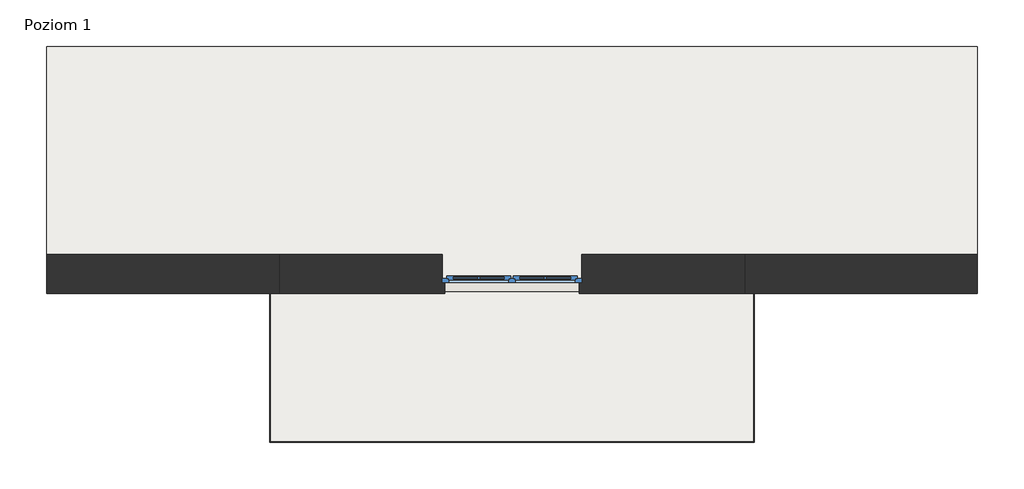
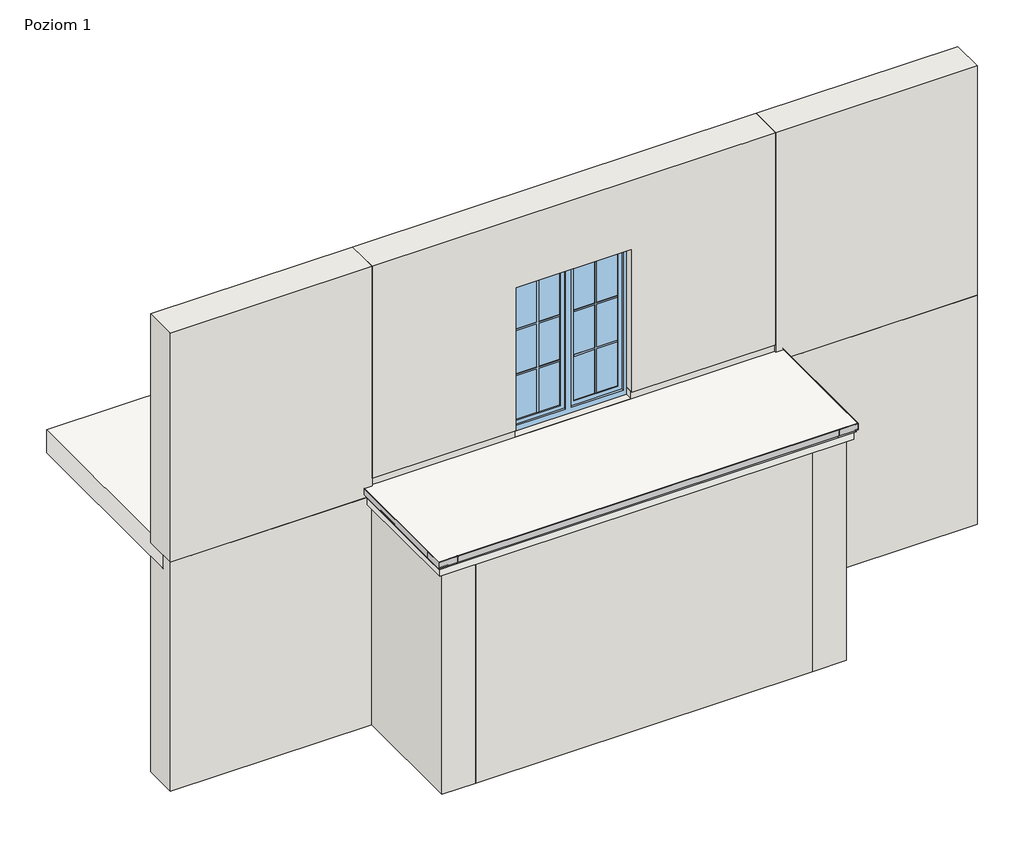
# One storey, part 1 of 4: 10 walls, 5 proxies, 3 slabs, 1 window.
"""IFC4 building model written with IfcOpenShell, lengths in millimetres."""

from ifc_helpers import new_model, si_unit, frame, origin, place, context, project, spatial, polyline, outline, extrude, faceted_brep, transform, mapped, element, save
from components import generic_models_7e4038cf, generic_models_5630e756, w60_6fb74b1a, w60_1233e3f4, w60_c95d3f9e, window_150x200_12b14935

model = new_model("IFC4")

# Units and contexts
model_context = context("Model", 3, world=origin())
ifc_project = project(units=[si_unit("LENGTHUNIT", "METRE", prefix="MILLI")], contexts=[model_context])

# Site, building, storey
site = spatial("IfcSite", under=ifc_project)
building = spatial("IfcBuilding", under=site)
storey = spatial("IfcBuildingStorey", under=building, Name="Poziom 1", Elevation=0.0)

# Proxies
placement = place(None, origin())
generic_models_shape = generic_models_7e4038cf(model_context)
element("IfcBuildingElementProxy", 1, Name="Odbojniki - OPW60 : Odbojniki - OPW60", ObjectType="Odbojniki - OPW60 : Odbojniki - OPW60", at=placement, inside=storey, context=model_context, shape_type="MappedRepresentation", body=[
    mapped(generic_models_shape, transform((-105753.3865026, 45282.2483344, -55.0), x_axis=(0.0, -1.0, 0.0), y_axis=(1.0, 0.0, 0.0), z_axis=(0.0, 0.0, 1.0))),
])
generic_models_2_shape = generic_models_5630e756(model_context)
element("IfcBuildingElementProxy", 2, Name="Odbojniki - OPW60 : Odbojniki - OPW60", ObjectType="Odbojniki - OPW60 : Odbojniki - OPW60", at=placement, inside=storey, context=model_context, shape_type="MappedRepresentation", body=[
    mapped(generic_models_2_shape, transform((-100555.0865026, 45281.1663007, -55.0), x_axis=(0.0, -1.0, 0.0), y_axis=(1.0, 0.0, 0.0), z_axis=(0.0, 0.0, 1.0))),
])
w60_shape = w60_6fb74b1a(model_context)
element("IfcBuildingElementProxy", 3, Name="W60 Profil okapowy prosty : W60", ObjectType="W60 Profil okapowy prosty : W60", at=placement, inside=storey, context=model_context, shape_type="MappedRepresentation", body=[
    mapped(w60_shape, transform((-105717.2365026, 43700.2483344, -55.0), x_axis=(1.0, 0.0, 0.0), y_axis=(0.0, 1.0, 0.0), z_axis=(0.0, 0.0, 1.0))),
])
w60_2_shape = w60_1233e3f4(model_context)
element("IfcBuildingElementProxy", 4, Name="W60 Profil okapowy prosty : W60", ObjectType="W60 Profil okapowy prosty : W60", at=placement, inside=storey, context=model_context, shape_type="MappedRepresentation", body=[
    mapped(w60_2_shape, transform((-105717.2365026, 45285.2483344, -55.0), x_axis=(0.0, -1.0, 0.0), y_axis=(1.0, 0.0, 0.0), z_axis=(0.0, 0.0, 1.0))),
])
w60_3_shape = w60_c95d3f9e(model_context)
element("IfcBuildingElementProxy", 5, Name="W60 Profil okapowy prosty : W60", ObjectType="W60 Profil okapowy prosty : W60", at=placement, inside=storey, context=model_context, shape_type="MappedRepresentation", body=[
    mapped(w60_3_shape, transform((-100591.2365026, 45284.1663007, -55.0), x_axis=(0.0, -1.0, 0.0), y_axis=(1.0, 0.0, 0.0), z_axis=(0.0, 0.0, 1.0))),
])

# Slabs
element("IfcSlab", 6, ObjectType="Taras - wykończenie - posadzka z płytek grubowarstwowych - podkładka P1 - hydroizolacja", at=placement, inside=storey, context=model_context, shape_type="SweptSolid", body=[
    extrude(outline(polyline([(-105717.2365026, 43700.2483344), (-105717.2365026, 45285.2483344), (-100591.2365026, 45285.2483344), (-100591.2365026, 43700.2483344), (-105717.2365026, 43700.2483344)])), frame((0.0, 0.0, -215.0), z_axis=(0.0, 0.0, 1.0), x_axis=(1.0, 0.0, 0.0)), (0.0, 0.0, 1.0), 160.0),
])
element("IfcSlab", 7, ObjectType="Taras - wykończenie - posadzka z płytek grubowarstwowych", at=placement, inside=storey, context=model_context, shape_type="SweptSolid", body=[
    extrude(outline(polyline([(-105749.4365026, 43668.0483344), (-105749.4365026, 45285.2483344), (-100559.0365026, 45285.2483344), (-100559.0365026, 43668.0483344), (-105749.4365026, 43668.0483344)])), frame((0.0, 0.0, -55.0), z_axis=(0.0, 0.0, 1.0), x_axis=(1.0, 0.0, 0.0)), (0.0, 0.0, 1.0), 55.0),
])
element("IfcSlab", 8, ObjectType="Strop", at=placement, inside=storey, context=model_context, shape_type="Brep", body=[
    faceted_brep([(-98154.2365026, 45418.2483344, -300.0), (-100649.2365026, 45418.2483344, -300.0), (-101069.2365026, 45418.2483344, -300.0), (-105239.2365026, 45418.2483344, -300.0), (-108154.2365026, 45418.2483344, -300.0), (-108154.2365026, 45683.2483344, -300.0), (-108154.2365026, 47918.2483344, -300.0), (-98154.2365026, 47918.2483344, -300.0), (-98154.2365026, 45683.2483344, -300.0), (-98154.2365026, 45418.2483344, 0.0), (-98154.2365026, 47918.2483344, 0.0), (-108154.2365026, 47918.2483344, 0.0), (-108154.2365026, 45418.2483344, 0.0), (-105654.2365026, 45418.2483344, 0.0), (-103904.2365026, 45418.2483344, 0.0), (-102404.2365026, 45418.2483344, 0.0), (-100654.2365026, 45418.2483344, 0.0), (-98154.2365026, 45418.2483344, -125.0), (-108154.2365026, 45418.2483344, -125.0)], [[[0, 1, 2, 3, 4, 5, 6, 7, 8]], [[9, 10, 11, 12, 13, 14, 15, 16]], [[4, 3, 2, 1, 0, 17, 9, 16, 15, 14, 13, 12, 18]], [[6, 5, 4, 18, 12, 11]], [[7, 6, 11, 10]], [[0, 8, 7, 10, 9, 17]]]),
])

# Walls
element("IfcWall", 9, ObjectType="Porotherm P+W 25 + o15 + t", at=placement, inside=storey, context=model_context, shape_type="Brep", body=[
    faceted_brep([(-108154.2365026, 45263.2483344, -3125.0), (-105659.2365026, 45263.2483344, -3125.0), (-105239.2365026, 45263.2483344, -3125.0), (-105239.2365026, 45263.2483344, -147.509132), (-105449.2365026, 45263.2483344, -147.509132), (-105449.2365026, 45263.2483344, -125.0), (-105654.2365026, 45263.2483344, -125.0), (-108154.2365026, 45263.2483344, -125.0), (-105239.2365026, 45683.2483344, -3125.0), (-108154.2365026, 45683.2483344, -3125.0), (-108154.2365026, 45683.2483344, -300.0), (-105239.2365026, 45683.2483344, -300.0), (-105239.2365026, 45403.2483344, -3125.0), (-105449.2365026, 45403.2483344, -125.0), (-105449.2365026, 45418.2483344, -125.0), (-108154.2365026, 45418.2483344, -125.0), (-108154.2365026, 45418.2483344, -300.0), (-105239.2365026, 45418.2483344, -300.0), (-105449.2365026, 45418.2483344, -147.509132), (-105239.2365026, 45418.2483344, -147.509132), (-105449.2365026, 45403.2483344, -147.509132), (-105239.2365026, 45403.2483344, -147.509132)], [[[0, 1, 2, 3, 4, 5, 6, 7]], [[8, 9, 10, 11]], [[2, 1, 0, 9, 8, 12]], [[7, 6, 5, 13, 14, 15]], [[0, 7, 15, 16, 10, 9]], [[16, 17, 11, 10]], [[17, 16, 15, 14, 18, 19]], [[5, 4, 20, 18, 14, 13]], [[4, 3, 21, 19, 18, 20]], [[3, 2, 12, 8, 11, 17, 19, 21]]]),
])
element("IfcWall", 10, ObjectType="Porotherm P+W 25 + o15 + t", at=placement, inside=storey, context=model_context, shape_type="Brep", body=[
    faceted_brep([(-105659.2365026, 45263.2483344, -3125.0), (-105659.2365026, 43758.2483344, -3125.0), (-105659.2365026, 43758.2483344, -147.509132), (-105659.2365026, 45263.2483344, -147.509132), (-105239.2365026, 45263.2483344, -3125.0), (-105239.2365026, 45263.2483344, -147.509132), (-105239.2365026, 44178.2483344, -147.509132), (-105239.2365026, 43758.2483344, -147.509132), (-105239.2365026, 43758.2483344, -3125.0), (-105239.2365026, 44178.2483344, -3125.0), (-105449.2365026, 45263.2483344, -147.509132)], [[[0, 1, 2, 3]], [[4, 5, 6, 7, 8, 9]], [[1, 0, 4, 9, 8]], [[3, 2, 7, 6, 5, 10]], [[2, 1, 8, 7]], [[0, 3, 10, 5, 4]]]),
])
element("IfcWall", 11, ObjectType="Porotherm P+W 25 + o15 + t", at=placement, inside=storey, context=model_context, shape_type="SweptSolid", body=[
    extrude(outline(polyline([(-101069.2365026, 43758.2483344), (-105239.2365026, 43758.2483344), (-105239.2365026, 44178.2483344), (-101069.2365026, 44178.2483344), (-101069.2365026, 43758.2483344)])), frame((0.0, 0.0, -3125.0), z_axis=(0.0, 0.0, 1.0), x_axis=(1.0, 0.0, 0.0)), (0.0, 0.0, 1.0), 2977.490868),
])
element("IfcWall", 12, ObjectType="Porotherm P+W 25 + o15 + t", at=placement, inside=storey, context=model_context, shape_type="Brep", body=[
    faceted_brep([(-100649.2365026, 43758.2483344, -3125.0), (-100649.2365026, 45263.2483344, -3125.0), (-100649.2365026, 45683.2483344, -3125.0), (-100649.2365026, 45683.2483344, -300.0), (-100649.2365026, 45683.2483344, -147.509132), (-100649.2365026, 45418.2483344, -147.509132), (-100649.2365026, 45263.2483344, -147.509132), (-100649.2365026, 43758.2483344, -147.509132), (-101069.2365026, 43758.2483344, -3125.0), (-101069.2365026, 43758.2483344, -147.509132), (-101069.2365026, 44178.2483344, -147.509132), (-101069.2365026, 45403.2483344, -147.509132), (-101069.2365026, 45418.2483344, -147.509132), (-101069.2365026, 45683.2483344, -147.509132), (-101069.2365026, 45683.2483344, -300.0), (-101069.2365026, 45683.2483344, -3125.0), (-101069.2365026, 45403.2483344, -3125.0), (-101069.2365026, 44178.2483344, -3125.0)], [[[0, 1, 2, 3, 4, 5, 6, 7]], [[8, 9, 10, 11, 12, 13, 14, 15, 16, 17]], [[2, 1, 0, 8, 17, 16, 15]], [[7, 6, 5, 4, 13, 12, 11, 10, 9]], [[0, 7, 9, 8]], [[4, 3, 2, 15, 14, 13]]]),
])
element("IfcWall", 13, ObjectType="Porotherm P+W 25 + o15 + t", at=placement, inside=storey, context=model_context, shape_type="Brep", body=[
    faceted_brep([(-100649.2365026, 45263.2483344, -3125.0), (-98154.2365026, 45263.2483344, -3125.0), (-98154.2365026, 45263.2483344, -125.0), (-100654.2365026, 45263.2483344, -125.0), (-100859.2365026, 45263.2483344, -125.0), (-100859.2365026, 45263.2483344, -147.509132), (-100649.2365026, 45263.2483344, -147.509132), (-98154.2365026, 45683.2483344, -3125.0), (-100649.2365026, 45683.2483344, -3125.0), (-100649.2365026, 45683.2483344, -300.0), (-98154.2365026, 45683.2483344, -300.0), (-98154.2365026, 45418.2483344, -300.0), (-98154.2365026, 45418.2483344, -125.0), (-100859.2365026, 45418.2483344, -125.0), (-100859.2365026, 45403.2483344, -125.0), (-100649.2365026, 45418.2483344, -300.0), (-100649.2365026, 45418.2483344, -147.509132), (-100859.2365026, 45418.2483344, -147.509132), (-100859.2365026, 45403.2483344, -147.509132)], [[[0, 1, 2, 3, 4, 5, 6]], [[7, 8, 9, 10]], [[1, 0, 8, 7]], [[2, 1, 7, 10, 11, 12]], [[4, 3, 2, 12, 13, 14]], [[15, 11, 10, 9]], [[11, 15, 16, 17, 13, 12]], [[5, 4, 14, 13, 17, 18]], [[6, 5, 18, 17, 16]], [[0, 6, 16, 15, 9, 8]]]),
])
element("IfcWall", 14, ObjectType="Porotherm P+W 25(wieniec 45) + t", at=placement, inside=storey, context=model_context, shape_type="Brep", body=[
    faceted_brep([(-105239.2365026, 45403.2483344, -3125.0), (-101069.2365026, 45403.2483344, -3125.0), (-101069.2365026, 45403.2483344, -147.509132), (-100859.2365026, 45403.2483344, -147.509132), (-100859.2365026, 45403.2483344, -125.0), (-105449.2365026, 45403.2483344, -125.0), (-105449.2365026, 45403.2483344, -147.509132), (-105239.2365026, 45403.2483344, -147.509132), (-101069.2365026, 45683.2483344, -3125.0), (-105239.2365026, 45683.2483344, -3125.0), (-105239.2365026, 45683.2483344, -300.0), (-101069.2365026, 45683.2483344, -300.0), (-100859.2365026, 45418.2483344, -125.0), (-105449.2365026, 45418.2483344, -125.0), (-105239.2365026, 45418.2483344, -300.0), (-101069.2365026, 45418.2483344, -300.0), (-105239.2365026, 45418.2483344, -147.509132), (-105449.2365026, 45418.2483344, -147.509132), (-100859.2365026, 45418.2483344, -147.509132), (-101069.2365026, 45418.2483344, -147.509132)], [[[0, 1, 2, 3, 4, 5, 6, 7]], [[8, 9, 10, 11]], [[1, 0, 9, 8]], [[5, 4, 12, 13]], [[14, 15, 11, 10]], [[15, 14, 16, 17, 13, 12, 18, 19]], [[6, 5, 13, 17]], [[7, 6, 17, 16]], [[0, 7, 16, 14, 10, 9]], [[4, 3, 18, 12]], [[3, 2, 19, 18]], [[2, 1, 8, 11, 15, 19]]]),
])
element("IfcWall", 15, ObjectType="Porotherm P+W 25 + o15 + t", at=placement, inside=storey, context=model_context, shape_type="Brep", body=[
    faceted_brep([(-108154.2365026, 45263.2483344, -125.0), (-105654.2365026, 45263.2483344, -125.0), (-105654.2365026, 45263.2483344, 100.0), (-105654.2365026, 45263.2483344, 2875.0), (-108154.2365026, 45263.2483344, 2875.0), (-108154.2365026, 45683.2483344, -125.0), (-108154.2365026, 45683.2483344, 2875.0), (-105654.2365026, 45683.2483344, 2875.0), (-105654.2365026, 45683.2483344, 100.0), (-105654.2365026, 45683.2483344, 0.0), (-105654.2365026, 45683.2483344, -125.0), (-108154.2365026, 45418.2483344, -125.0), (-105654.2365026, 45418.2483344, -125.0), (-105654.2365026, 45285.2483344, -125.0)], [[[0, 1, 2, 3, 4]], [[5, 6, 7, 8, 9, 10]], [[1, 0, 11, 5, 10, 12, 13]], [[4, 3, 7, 6]], [[0, 4, 6, 5, 11]], [[1, 13, 12, 10, 9, 8, 7, 3, 2]]]),
])
element("IfcWall", 16, ObjectType="Porotherm P+W 25 + o15 + t", at=placement, inside=storey, context=model_context, shape_type="Brep", body=[
    faceted_brep([(-100654.2365026, 45263.2483344, 2875.0), (-100654.2365026, 45263.2483344, 100.0), (-100654.2365026, 45263.2483344, -125.0), (-98154.2365026, 45263.2483344, -125.0), (-98154.2365026, 45263.2483344, 2875.0), (-100654.2365026, 45683.2483344, -125.0), (-100654.2365026, 45683.2483344, 0.0), (-100654.2365026, 45683.2483344, 100.0), (-100654.2365026, 45683.2483344, 2875.0), (-98154.2365026, 45683.2483344, 2875.0), (-98154.2365026, 45683.2483344, -125.0), (-100654.2365026, 45285.2483344, -125.0), (-100654.2365026, 45418.2483344, -125.0), (-98154.2365026, 45418.2483344, -125.0)], [[[0, 1, 2, 3, 4]], [[5, 6, 7, 8, 9, 10]], [[3, 2, 11, 12, 5, 10, 13]], [[4, 3, 13, 10, 9]], [[0, 4, 9, 8]], [[0, 8, 7, 6, 5, 12, 11, 2, 1]]]),
])
element("IfcWall", 17, ObjectType="Porotherm P+W 25 + o12 + pł ceramiczne", at=placement, inside=storey, context=model_context, shape_type="Brep", body=[
    faceted_brep([(-105654.2365026, 45285.2483344, -125.0), (-100654.2365026, 45285.2483344, -125.0), (-100654.2365026, 45285.2483344, 100.0), (-102434.2365026, 45285.2483344, 100.0), (-102434.2365026, 45285.2483344, 0.0), (-103874.2365026, 45285.2483344, 0.0), (-103874.2365026, 45285.2483344, 100.0), (-105654.2365026, 45285.2483344, 100.0), (-102404.2365026, 45683.2483344, 100.0), (-100654.2365026, 45683.2483344, 100.0), (-100654.2365026, 45683.2483344, 0.0), (-102404.2365026, 45683.2483344, 0.0), (-105654.2365026, 45683.2483344, 100.0), (-103904.2365026, 45683.2483344, 100.0), (-103904.2365026, 45683.2483344, 0.0), (-105654.2365026, 45683.2483344, 0.0), (-105654.2365026, 45418.2483344, -125.0), (-100654.2365026, 45418.2483344, -125.0), (-100654.2365026, 45418.2483344, 0.0), (-102404.2365026, 45383.2483344, 100.0), (-102434.2365026, 45383.2483344, 100.0), (-103874.2365026, 45383.2483344, 100.0), (-103904.2365026, 45383.2483344, 100.0), (-105654.2365026, 45418.2483344, 0.0), (-102404.2365026, 45418.2483344, 0.0), (-103904.2365026, 45418.2483344, 0.0), (-103904.2365026, 45383.2483344, 0.0), (-103874.2365026, 45383.2483344, 0.0), (-102434.2365026, 45383.2483344, 0.0), (-102404.2365026, 45383.2483344, 0.0)], [[[0, 1, 2, 3, 4, 5, 6, 7]], [[8, 9, 10, 11]], [[12, 13, 14, 15]], [[1, 0, 16, 17]], [[2, 1, 17, 18, 10, 9]], [[2, 9, 8, 19, 20, 3]], [[12, 7, 6, 21, 22, 13]], [[0, 7, 12, 15, 23, 16]], [[18, 24, 11, 10]], [[25, 23, 15, 14]], [[24, 18, 17, 16, 23, 25]], [[26, 27, 5, 4, 28, 29, 24, 25]], [[27, 26, 22, 21]], [[29, 28, 20, 19]], [[29, 19, 8, 11, 24]], [[22, 26, 25, 14, 13]], [[28, 4, 3, 20]], [[5, 27, 21, 6]]]),
])
element("IfcWall", 18, ObjectType="Porotherm P+W 25 + o15 + t", at=placement, inside=storey, context=model_context, shape_type="Brep", body=[
    faceted_brep([(-100654.2365026, 45263.2483344, 100.0), (-100654.2365026, 45263.2483344, 2875.0), (-105654.2365026, 45263.2483344, 2875.0), (-105654.2365026, 45263.2483344, 100.0), (-103874.2365026, 45263.2483344, 100.0), (-103874.2365026, 45263.2483344, 1970.0), (-102434.2365026, 45263.2483344, 1970.0), (-102434.2365026, 45263.2483344, 100.0), (-100654.2365026, 45683.2483344, 2875.0), (-100654.2365026, 45683.2483344, 100.0), (-102404.2365026, 45683.2483344, 100.0), (-102404.2365026, 45683.2483344, 2000.0), (-103904.2365026, 45683.2483344, 2000.0), (-103904.2365026, 45683.2483344, 100.0), (-105654.2365026, 45683.2483344, 100.0), (-105654.2365026, 45683.2483344, 2875.0), (-105654.2365026, 45285.2483344, 100.0), (-103904.2365026, 45383.2483344, 100.0), (-103874.2365026, 45383.2483344, 100.0), (-103874.2365026, 45285.2483344, 100.0), (-100654.2365026, 45285.2483344, 100.0), (-102434.2365026, 45285.2483344, 100.0), (-102434.2365026, 45383.2483344, 100.0), (-102404.2365026, 45383.2483344, 100.0), (-102404.2365026, 45383.2483344, 2000.0), (-102434.2365026, 45383.2483344, 1970.0), (-103904.2365026, 45383.2483344, 2000.0), (-103874.2365026, 45383.2483344, 1970.0)], [[[0, 1, 2, 3, 4, 5, 6, 7]], [[8, 9, 10, 11, 12, 13, 14, 15]], [[3, 16, 14, 13, 17, 18, 19, 4]], [[9, 20, 0, 7, 21, 22, 23, 10]], [[1, 0, 20, 9, 8]], [[2, 1, 8, 15]], [[3, 2, 15, 14, 16]], [[24, 11, 10, 23]], [[6, 25, 22, 21, 7]], [[26, 12, 11, 24]], [[26, 24, 23, 22, 25, 27, 18, 17]], [[12, 26, 17, 13]], [[27, 25, 6, 5]], [[27, 5, 4, 19, 18]]]),
])

# Window
window_150x200_shape = window_150x200_12b14935(model_context)
element("IfcWindow", 19, ObjectType="OKNO_2X_W_SZ : 150x200", at=placement, inside=storey, context=model_context, shape_type="MappedRepresentation", body=[
    mapped(window_150x200_shape, transform((-103154.2365026, 45473.2483344, -850.0), x_axis=(-1.0, 0.0, 0.0), y_axis=(0.0, -1.0, 0.0), z_axis=(0.0, 0.0, 1.0))),
])

save(model, "model.ifc")
